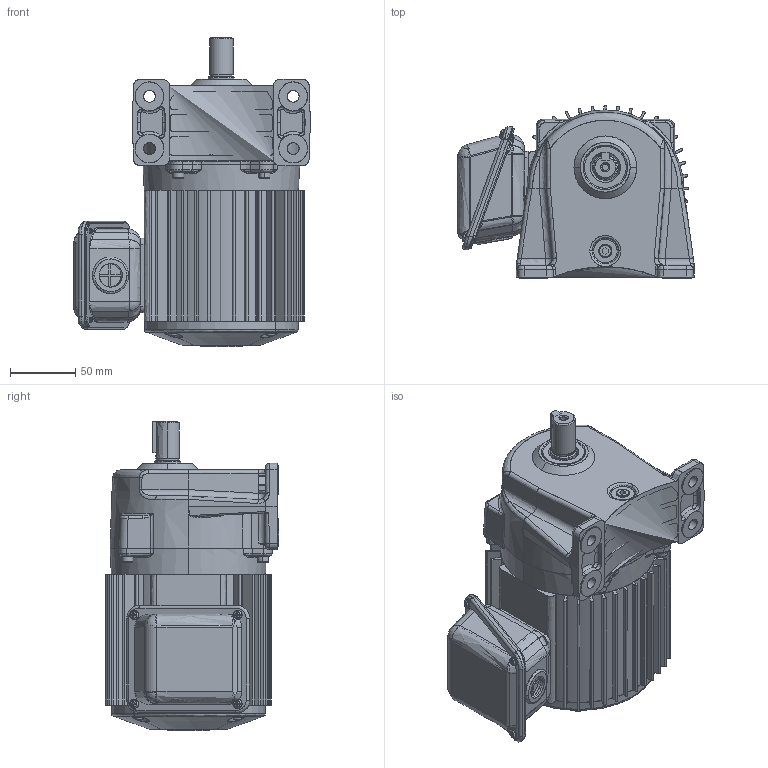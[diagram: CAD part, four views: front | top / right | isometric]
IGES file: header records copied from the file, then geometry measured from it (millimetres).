
Start section: SolidWorks IGES file using analytic representation for surfaces
Global section: file name: \\100.100.100.8\1_共有作業フォルダ\1-5_３Ｄデータ\solidworks\personal-folder\H.Nagayama\SGP1外形\P1(3D)\igs\TML2-01-(5~50).IGS; native system: SolidWorks 2018; preprocessor: SolidWorks 2018; author: sigma-giken; date: 200611.110533; units: millimetre
Bounding box: 181.18 x 132.5 x 236.5 mm (x, y, z)
Surface area: 300036.3 mm2 (no closed solid volume)
Topology: 0 solids, 0 shells, 1511 faces, 18230 edges, 18170 vertices
Faces by surface type: bspline 785, revolution 726
